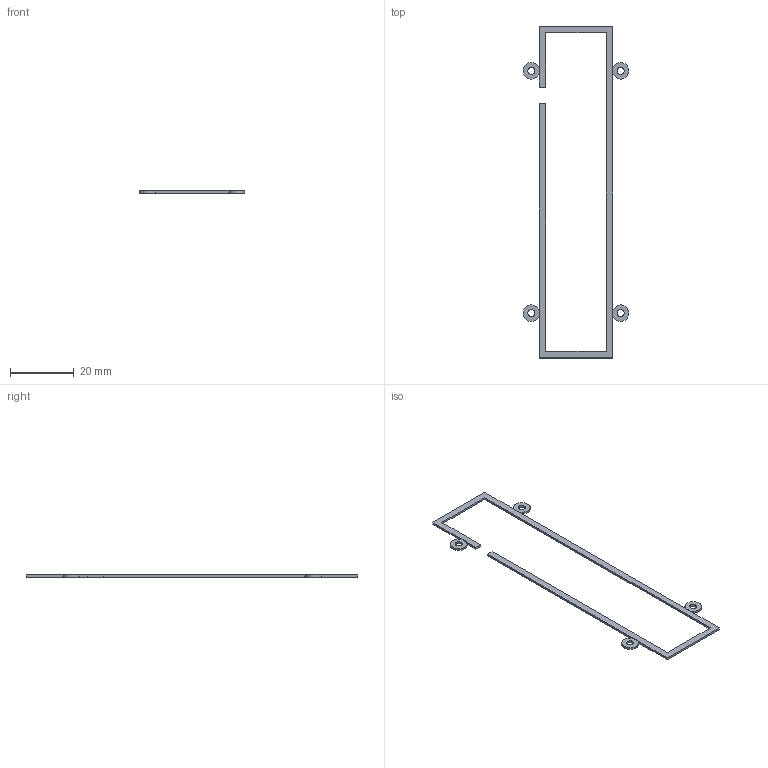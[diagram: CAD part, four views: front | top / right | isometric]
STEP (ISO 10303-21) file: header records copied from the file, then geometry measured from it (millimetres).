
FILE_DESCRIPTION(('Open CASCADE Model'),'2;1');
FILE_NAME('Open CASCADE Shape Model','2026-09-09T12:58:10',('Author'),( 'Open CASCADE'),'Open CASCADE STEP processor 7.9','Open CASCADE 7.9' ,'Unknown');
FILE_SCHEMA(('AUTOMOTIVE_DESIGN { 1 0 10303 214 1 1 1 1 }'));
Length unit declared in the file: millimetre
Products named in the file (1): Open CASCADE STEP translator 7.9 33
Bounding box: 33.19 x 104.1 x 0.65 mm (x, y, z)
Volume: 366.1 mm3; surface area: 1494 mm2
Topology: 1 solids, 1 shells, 44 faces, 98 edges, 56 vertices
Faces by surface type: plane 34, cylinder 10
Full cylindrical faces by diameter (mm): 2.2 x4
Entity records: 2462 total; most frequent: CARTESIAN_POINT 495, DIRECTION 356, ORIENTED_EDGE 196, PCURVE 196, DEFINITIONAL_REPRESENTATION 196, LINE 166, VECTOR 166, EDGE_CURVE 98
